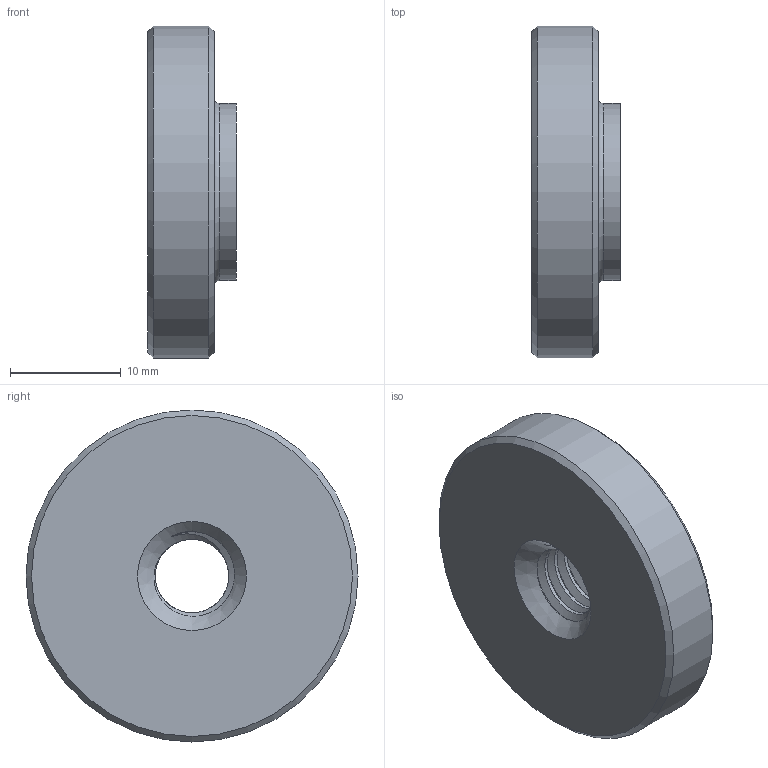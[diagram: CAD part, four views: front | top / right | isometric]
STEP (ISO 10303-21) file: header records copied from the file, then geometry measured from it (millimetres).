
FILE_DESCRIPTION(('STEP AP203'), '1');
FILE_NAME('À00083.108', '2025-03-17T10:19:46', ('1'), (''), 'C3D Converter', 'C3D Toolkit', '');
FILE_SCHEMA(('CONFIG_CONTROL_DESIGN'));
Length unit declared in the file: millimetre
Products named in the file (1): А00083.108
Bounding box: 8 x 30 x 30 mm (x, y, z)
Volume: 4246.9 mm3; surface area: 2166.1 mm2
Topology: 1 solids, 1 shells, 17 faces, 40 edges, 29 vertices
Faces by surface type: cylinder 6, cone 4, bspline 3, plane 3, torus 1
Full cylindrical faces by diameter (mm): 16 x1, 30 x1
Entity records: 4832 total; most frequent: CARTESIAN_POINT 4321, ORIENTED_EDGE 64, DIRECTION 55, EDGE_CURVE 32, EDGE_LOOP 27, AXIS2_PLACEMENT_3D 26, VERTEX_POINT 25, COLOUR_RGB 19
